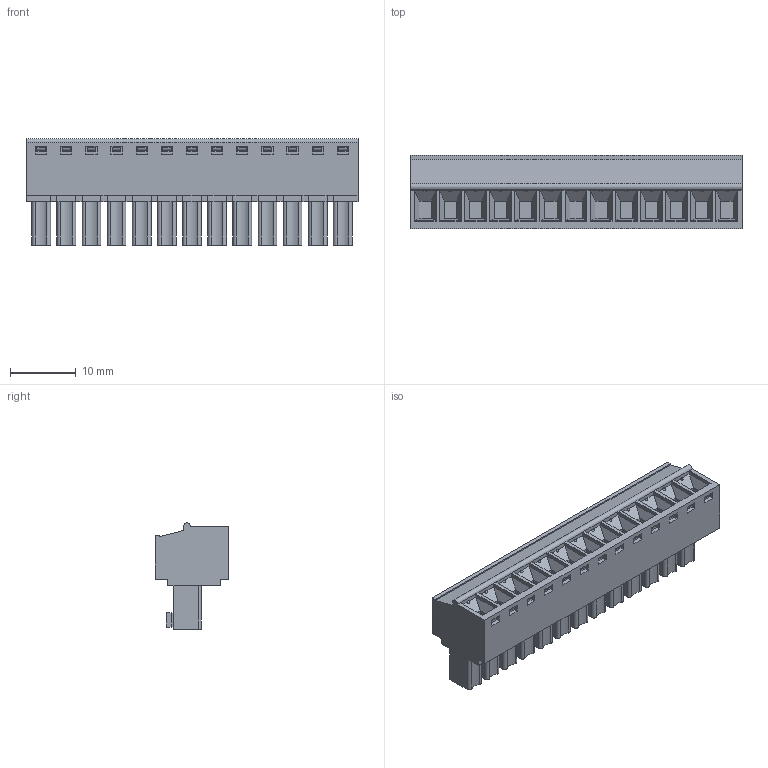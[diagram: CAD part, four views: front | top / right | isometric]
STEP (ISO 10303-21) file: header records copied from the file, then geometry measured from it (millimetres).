
FILE_DESCRIPTION(('FreeCAD Model'),'2;1');
FILE_NAME('Open CASCADE Shape Model','2023-05-24T15:44:18',('Author'),( ''),'Open CASCADE STEP processor 7.6','FreeCAD','Unknown');
FILE_SCHEMA(('AUTOMOTIVE_DESIGN { 1 0 10303 214 1 1 1 1 }'));
Products named in the file (1): BR7F2-13
Bounding box: 50.32 x 11.2 x 16.1 mm (x, y, z)
Volume: 4998.4 mm3; surface area: 4750 mm2
Topology: 1 solids, 1 shells, 1157 faces, 2804 edges, 1740 vertices
Faces by surface type: plane 688, cylinder 261, cone 130, torus 52, sphere 26
Entity records: 75377 total; most frequent: CARTESIAN_POINT 18485, DIRECTION 10908, LINE 6598, VECTOR 6598, ORIENTED_EDGE 5556, PCURVE 5556, DEFINITIONAL_REPRESENTATION 5556, EDGE_CURVE 2778
